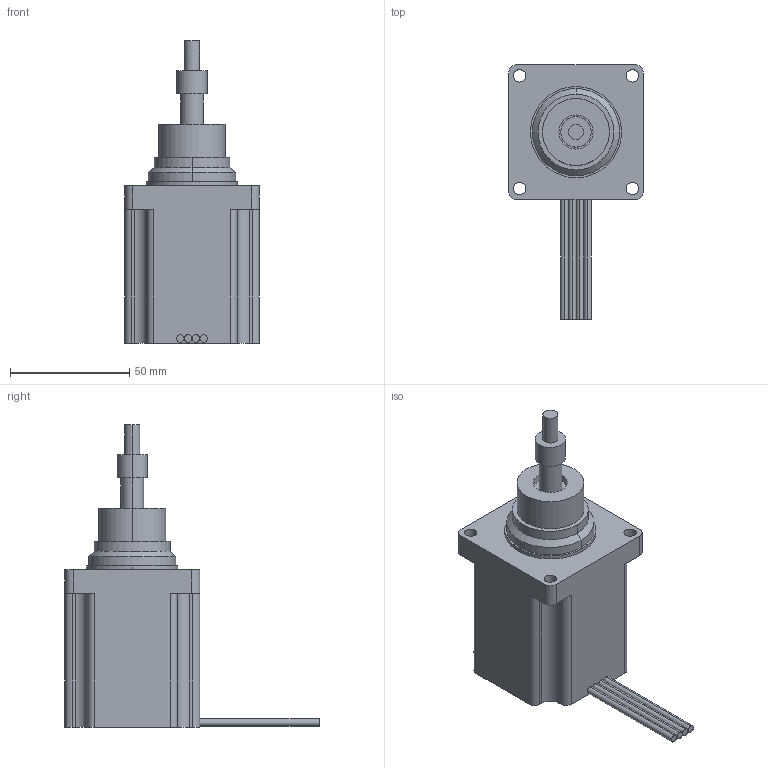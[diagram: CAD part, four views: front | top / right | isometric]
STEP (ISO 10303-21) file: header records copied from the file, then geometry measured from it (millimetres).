
FILE_DESCRIPTION (( 'STEP AP214' ), '1' );
FILE_NAME ('AMETEK-57M43-3.25-0.5-12.STEP', '2019-02-22T05:22:16', ( '' ), ( '' ), 'SwSTEP 2.0', 'SolidWorks 2019', '' );
FILE_SCHEMA (( 'AUTOMOTIVE_DESIGN' ));
Length unit declared in the file: millimetre
Products named in the file (1): AMETEK-57M43-3.25-0.5-12
Bounding box: 56.4 x 106.4 x 126.62 mm (x, y, z)
Volume: 207018.5 mm3; surface area: 28991.3 mm2
Topology: 2 solids, 2 shells, 85 faces, 206 edges, 136 vertices
Faces by surface type: cylinder 52, plane 31, cone 2
Entity records: 3519 total; most frequent: DIRECTION 482, CARTESIAN_POINT 428, ORIENTED_EDGE 412, EDGE_CURVE 206, AXIS2_PLACEMENT_3D 190, VERTEX_POINT 136, EDGE_LOOP 106, CIRCLE 104
